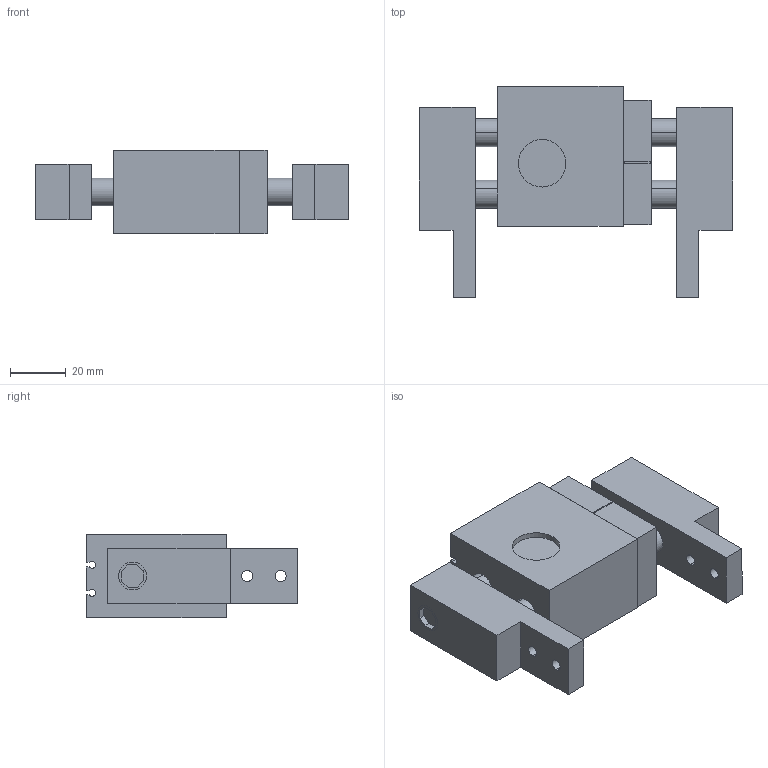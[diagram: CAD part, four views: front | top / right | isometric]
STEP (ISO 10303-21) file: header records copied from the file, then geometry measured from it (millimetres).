
FILE_DESCRIPTION (( 'STEP AP203' ), '1' );
FILE_NAME ('GDL.20-OPEN.STEP', '2011-11-07T09:54:32', ( 'Christophe Gaillard' ), ( 'SGA' ), 'SwSTEP 2.0', 'SolidWorks 2010', '' );
FILE_SCHEMA (( 'CONFIG_CONTROL_DESIGN' ));
Length unit declared in the file: millimetre
Products named in the file (6): Pièce4; p; GDL.20-OPEN; corps; Pièce3; Pièce5
Assembly tree (6 placements, depth 2):
  GDL.20-OPEN
    Pièce4
    Pièce3
    corps
    p
    Pièce5  x2
Bounding box: 112 x 75.5 x 30 mm (x, y, z)
Volume: 123380.5 mm3; surface area: 39342.1 mm2
Topology: 6 solids, 6 shells, 180 faces, 440 edges, 280 vertices
Faces by surface type: cylinder 86, plane 78, cone 16
Entity records: 5588 total; most frequent: DIRECTION 914, CARTESIAN_POINT 830, ORIENTED_EDGE 788, EDGE_CURVE 394, AXIS2_PLACEMENT_3D 344, VERTEX_POINT 260, EDGE_LOOP 226, VECTOR 226
